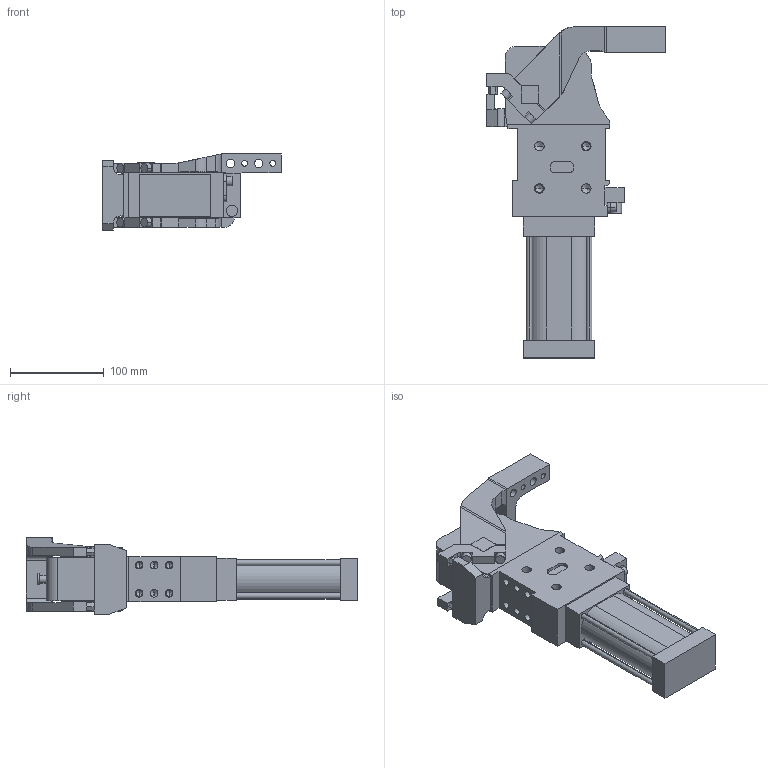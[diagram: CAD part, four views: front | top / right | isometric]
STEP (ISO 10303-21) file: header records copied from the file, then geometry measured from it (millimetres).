
FILE_DESCRIPTION (( 'STEP AP214' ), '1' );
FILE_NAME ('cpl50tv3ssi1g_26.STEP', '2023-01-26T09:56:14', ( '' ), ( '' ), 'SwSTEP 2.0', 'SolidWorks 2022', '' );
FILE_SCHEMA (( 'AUTOMOTIVE_DESIGN' ));
Length unit declared in the file: millimetre
Products named in the file (4): leva_v3ss_cpl50t; cpl50tv3ssi1g_26; meccanica_cpl_50_tassello_esterno; blocchetto_VEP_0
Assembly tree (3 placements, depth 2):
  cpl50tv3ssi1g_26
    meccanica_cpl_50_tassello_esterno
    blocchetto_VEP_0
    leva_v3ss_cpl50t
Bounding box: 190 x 353.5 x 81 mm (x, y, z)
Volume: 1441874.3 mm3; surface area: 176551.2 mm2
Topology: 3 solids, 3 shells, 438 faces, 1140 edges, 713 vertices
Faces by surface type: plane 226, cylinder 162, cone 50
Entity records: 14663 total; most frequent: CARTESIAN_POINT 2354, DIRECTION 2301, ORIENTED_EDGE 2188, EDGE_CURVE 1094, AXIS2_PLACEMENT_3D 778, LINE 745, VECTOR 745, VERTEX_POINT 713
